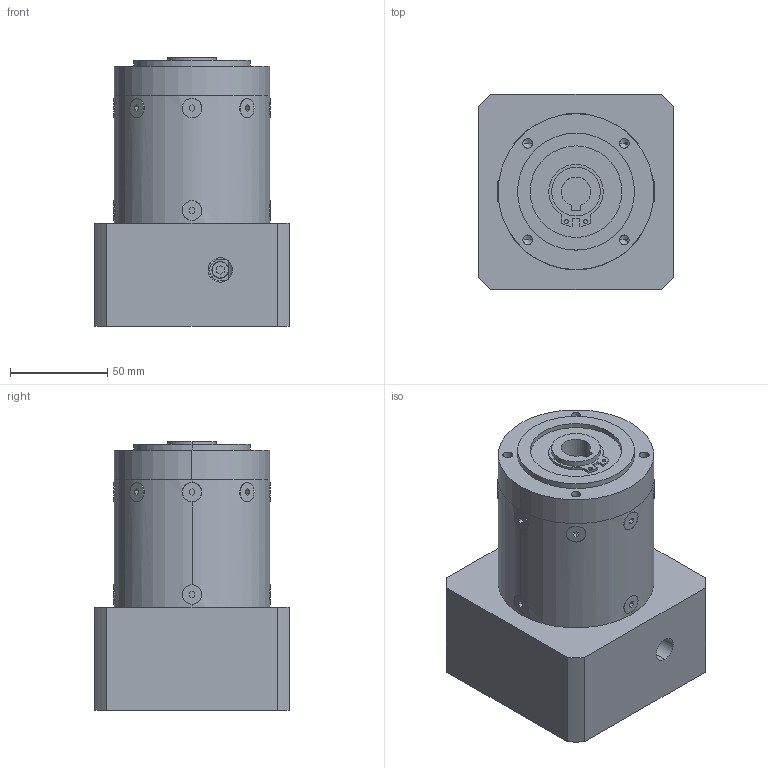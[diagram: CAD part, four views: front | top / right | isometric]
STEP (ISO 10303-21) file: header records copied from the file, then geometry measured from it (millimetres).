
FILE_DESCRIPTION (( 'STEP AP203' ), '1' );
FILE_NAME ('PBE80-L2-19-95-115.STEP', '2022-07-23T08:33:55', ( 'Windows User' ), ( 'P R C' ), 'SwSTEP 2.0', 'SolidWorks 2016', '' );
FILE_SCHEMA (( 'CONFIG_CONTROL_DESIGN' ));
Length unit declared in the file: millimetre
Products named in the file (7): PBE80-L2-19-95-115; PBE80 奻屳唳; PBE80 薊粣ん_D7-19 梓袧; PBE80 内齿圈-孔输出-B版_二级内齿圈; 囀鞠褒蹟佪-M5℅20; PBE80 蟀諉啣-95-M8-115-100遺-LR57; 粣創-6006 30x55x13
Assembly tree (6 placements, depth 2):
  PBE80-L2-19-95-115
    PBE80 奻屳唳
    PBE80 薊粣ん_D7-19 梓袧
    PBE80 内齿圈-孔输出-B版_二级内齿圈
    囀鞠褒蹟佪-M5℅20
    PBE80 蟀諉啣-95-M8-115-100遺-LR57
    粣創-6006 30x55x13
Bounding box: 100 x 100 x 138 mm (x, y, z)
Volume: 769252.1 mm3; surface area: 136705.3 mm2
Topology: 6 solids, 6 shells, 1088 faces, 2917 edges, 1917 vertices
Faces by surface type: plane 583, bspline 300, cylinder 177, cone 28
Entity records: 46632 total; most frequent: CARTESIAN_POINT 20714, ORIENTED_EDGE 5786, DIRECTION 4316, EDGE_CURVE 2893, VERTEX_POINT 1917, VECTOR 1502, LINE 1502, AXIS2_PLACEMENT_3D 1407
